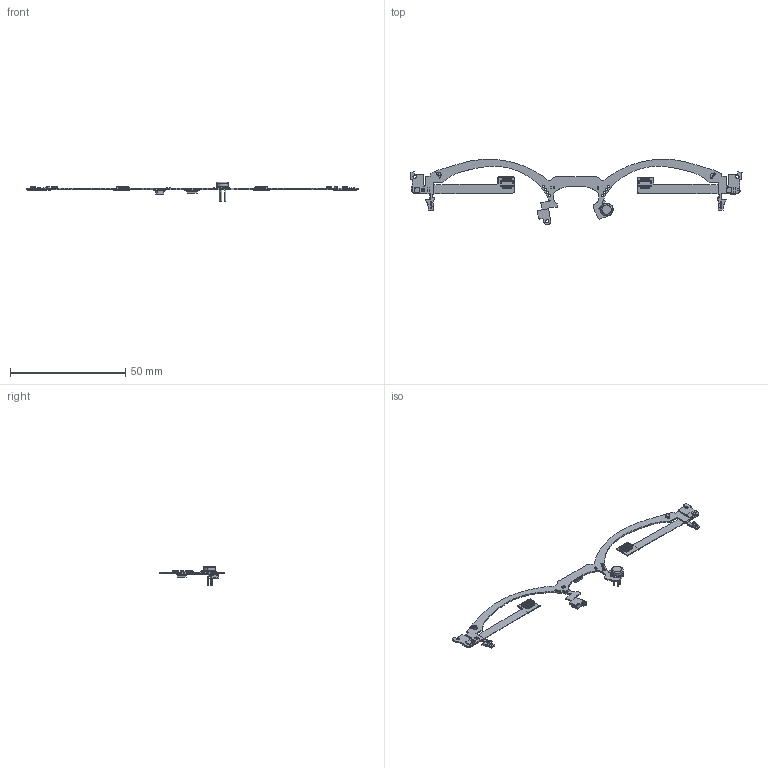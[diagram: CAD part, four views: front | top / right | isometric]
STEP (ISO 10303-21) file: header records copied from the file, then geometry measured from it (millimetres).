
FILE_DESCRIPTION(('Open CASCADE Model'),'2;1');
FILE_NAME('Open CASCADE Shape Model','2020-04-08T16:54:53',('Author'),( 'Open CASCADE'),'Open CASCADE STEP processor 6.8','Open CASCADE 6.8' ,'Unknown');
FILE_SCHEMA(('AUTOMOTIVE_DESIGN { 1 0 10303 214 1 1 1 1 }'));
Products named in the file (1): PCB
Bounding box: 143.83 x 28.21 x 8.33 mm (x, y, z)
Volume: 584.9 mm3; surface area: 3645.3 mm2
Topology: 163 solids, 651 shells, 3877 faces, 12327 edges, 9440 vertices
Faces by surface type: plane 3369, cylinder 422, sphere 50, bspline 24, torus 12
Full cylindrical faces by diameter (mm): 0.282 x2, 0.7 x4, 1 x8, 1.5 x3
Entity records: 142894 total; most frequent: CARTESIAN_POINT 28692, ORIENTED_EDGE 21210, DIRECTION 20746, EDGE_CURVE 11805, LINE 11030, VECTOR 11030, VERTEX_POINT 8646, AXIS2_PLACEMENT_3D 4858
